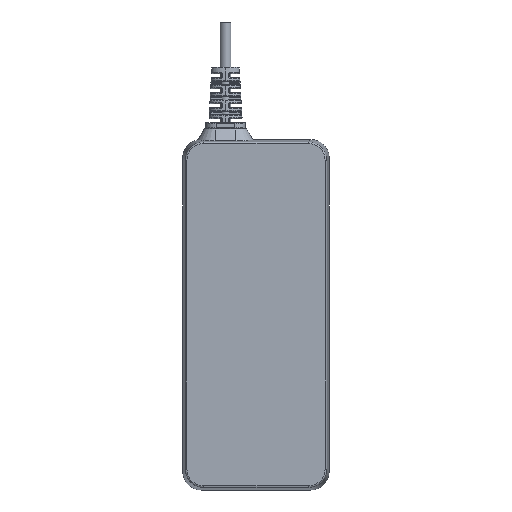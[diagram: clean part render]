
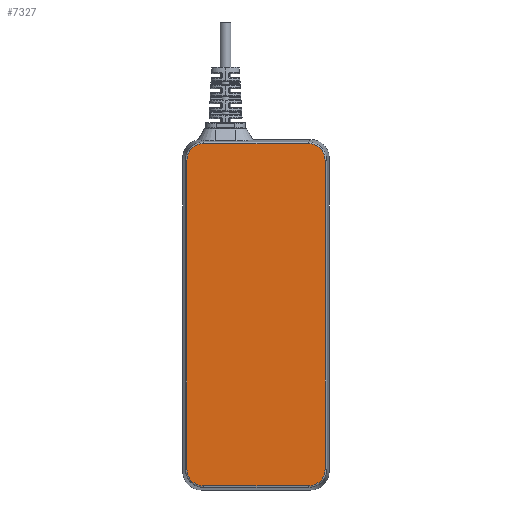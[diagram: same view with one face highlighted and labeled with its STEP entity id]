
A CAD part, front view. The second image highlights one B-rep face of the part: STEP entity #7327.
In plain terms, the highlighted planar face has unit normal (0, -1, 0).
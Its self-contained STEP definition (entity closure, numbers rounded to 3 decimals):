
#323=DIRECTION('',(-1.,0.,0.));
#324=VECTOR('',#323,34.388);
#325=CARTESIAN_POINT('',(17.194,-16.25,56.187));
#326=LINE('',#325,#324);
#371=DIRECTION('',(0.,0.,1.));
#372=VECTOR('',#371,101.388);
#373=CARTESIAN_POINT('',(22.687,-16.25,-50.694));
#374=LINE('',#373,#372);
#423=DIRECTION('',(1.,0.,0.));
#424=VECTOR('',#423,34.388);
#425=CARTESIAN_POINT('',(-17.194,-16.25,
-56.187));
#426=LINE('',#425,#424);
#464=DIRECTION('',(0.,0.,-1.));
#465=VECTOR('',#464,101.388);
#466=CARTESIAN_POINT('',(-22.687,-16.25,50.694));
#467=LINE('',#466,#465);
#468=CARTESIAN_POINT('',(17.197,-16.25,-50.697));
#469=DIRECTION('',(0.,-1.,0.));
#470=DIRECTION('',(-0.001,0.,-1.));
#471=AXIS2_PLACEMENT_3D('',#468,#469,#470);
#473=CARTESIAN_POINT('',(-17.197,-16.25,
-50.697));
#474=DIRECTION('',(0.,-1.,0.));
#475=DIRECTION('',(-1.,0.,0.001));
#476=AXIS2_PLACEMENT_3D('',#473,#474,#475);
#478=CARTESIAN_POINT('',(-17.197,-16.25,50.697));
#479=DIRECTION('',(0.,-1.,0.));
#480=DIRECTION('',(0.001,0.,1.));
#481=AXIS2_PLACEMENT_3D('',#478,#479,#480);
#483=CARTESIAN_POINT('',(17.197,-16.25,50.697));
#484=DIRECTION('',(0.,-1.,0.));
#485=DIRECTION('',(1.,0.,-0.001));
#486=AXIS2_PLACEMENT_3D('',#483,#484,#485);
#6118=CARTESIAN_POINT('',(22.687,-16.25,-50.695));
#6119=VERTEX_POINT('',#6118);
#6120=CARTESIAN_POINT('',(22.687,-16.25,50.694));
#6121=VERTEX_POINT('',#6120);
#6129=CARTESIAN_POINT('',(17.194,-16.25,56.187));
#6130=VERTEX_POINT('',#6129);
#6131=CARTESIAN_POINT('',(17.194,-16.25,
-56.187));
#6132=VERTEX_POINT('',#6131);
#6133=CARTESIAN_POINT('',(-17.194,-16.25,
-56.187));
#6134=VERTEX_POINT('',#6133);
#6135=CARTESIAN_POINT('',(-22.687,-16.25,
-50.694));
#6136=VERTEX_POINT('',#6135);
#6137=CARTESIAN_POINT('',(-22.687,-16.25,
50.694));
#6138=VERTEX_POINT('',#6137);
#6139=CARTESIAN_POINT('',(-17.194,-16.25,
56.187));
#6140=VERTEX_POINT('',#6139);
#7312=CARTESIAN_POINT('',(0.,-16.25,0.));
#7313=DIRECTION('',(0.,1.,0.));
#7314=DIRECTION('',(1.,0.,0.));
#7315=AXIS2_PLACEMENT_3D('',#7312,#7313,#7314);
#7316=PLANE('',#7315);
#7317=ORIENTED_EDGE('',*,*,#7211,.F.);
#7318=ORIENTED_EDGE('',*,*,#7252,.F.);
#7319=ORIENTED_EDGE('',*,*,#7267,.F.);
#7320=ORIENTED_EDGE('',*,*,#7306,.F.);
#7321=ORIENTED_EDGE('',*,*,#7125,.F.);
#7322=ORIENTED_EDGE('',*,*,#7140,.F.);
#7323=ORIENTED_EDGE('',*,*,#7155,.F.);
#7324=ORIENTED_EDGE('',*,*,#7196,.F.);
#7325=EDGE_LOOP('',(#7317,#7318,#7319,#7320,#7321,#7322,#7323,#7324));
#7326=FACE_OUTER_BOUND('',#7325,.F.);
#7327=ADVANCED_FACE('',(#7326),#7316,.F.);
#472=CIRCLE('',#471,5.489);
#477=CIRCLE('',#476,5.489);
#482=CIRCLE('',#481,5.489);
#487=CIRCLE('',#486,5.489);
#7125=EDGE_CURVE('',#6140,#6138,#482,.T.);
#7140=EDGE_CURVE('',#6130,#6140,#326,.T.);
#7155=EDGE_CURVE('',#6121,#6130,#487,.T.);
#7196=EDGE_CURVE('',#6119,#6121,#374,.T.);
#7211=EDGE_CURVE('',#6132,#6119,#472,.T.);
#7252=EDGE_CURVE('',#6134,#6132,#426,.T.);
#7267=EDGE_CURVE('',#6136,#6134,#477,.T.);
#7306=EDGE_CURVE('',#6138,#6136,#467,.T.);
